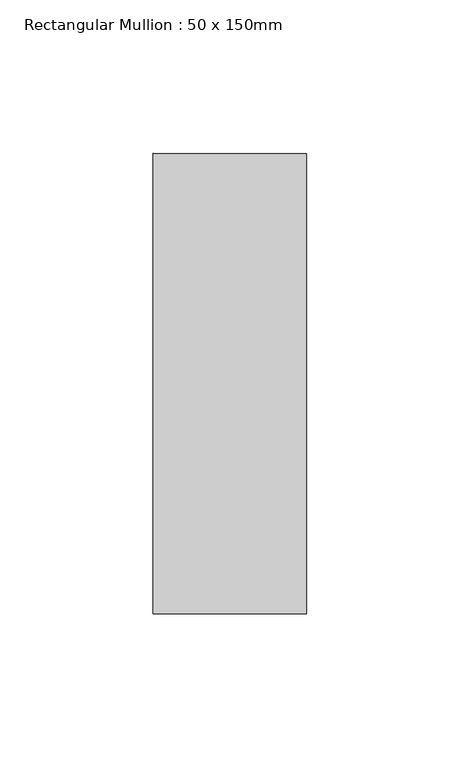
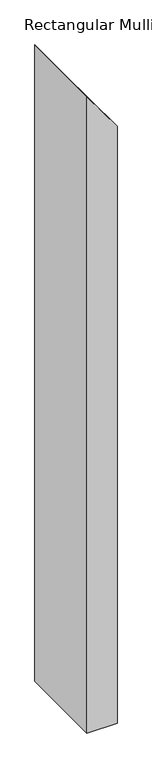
"""IFC4 building model written with IfcOpenShell, lengths in millimetres: member geometry, Rectangular Mullion : 50 x 150mm."""

from ifc_helpers import new_model, si_unit, frame, origin, place, context, project, spatial, polyline, outline, extrude, source, transform, mapped, element, save


def rectangular_mullion_50_x_150mm_ca34a9fe(model_context):
    return source(origin(), model_context, "Body", "SweptSolid", [
        extrude(outline(polyline([(-120.8533814, 25.0), (-50.9827106, -25.0), (-1170.4634977, -25.0), (-1170.4634977, 25.0), (-120.8533814, 25.0)])), frame((0.0, -75.0, 0.0), z_axis=(0.0, 1.0, 0.0), x_axis=(0.0, 0.0, 1.0)), (0.0, 0.0, 1.0), 150.0),
    ])


if __name__ == "__main__":
    model = new_model("IFC4")
    model_context = context("Model", 3, world=origin())
    ifc_project = project(units=[si_unit("LENGTHUNIT", "METRE", prefix="MILLI")], contexts=[model_context])
    site = spatial("IfcSite", under=ifc_project)
    building = spatial("IfcBuilding", under=site)
    placement = place(None, origin())
    rectangular_mullion_50_x_150mm_shape = rectangular_mullion_50_x_150mm_ca34a9fe(model_context)
    element("IfcMember", 1, ObjectType="Rectangular Mullion : 50 x 150mm", at=placement, inside=building, context=model_context, shape_type="MappedRepresentation", body=[
        mapped(rectangular_mullion_50_x_150mm_shape, transform((0.0, 0.0, 0.0), x_axis=(1.0, 0.0, 0.0), y_axis=(0.0, 1.0, 0.0), z_axis=(0.0, 0.0, 1.0))),
    ])
    save(model, "model.ifc")
